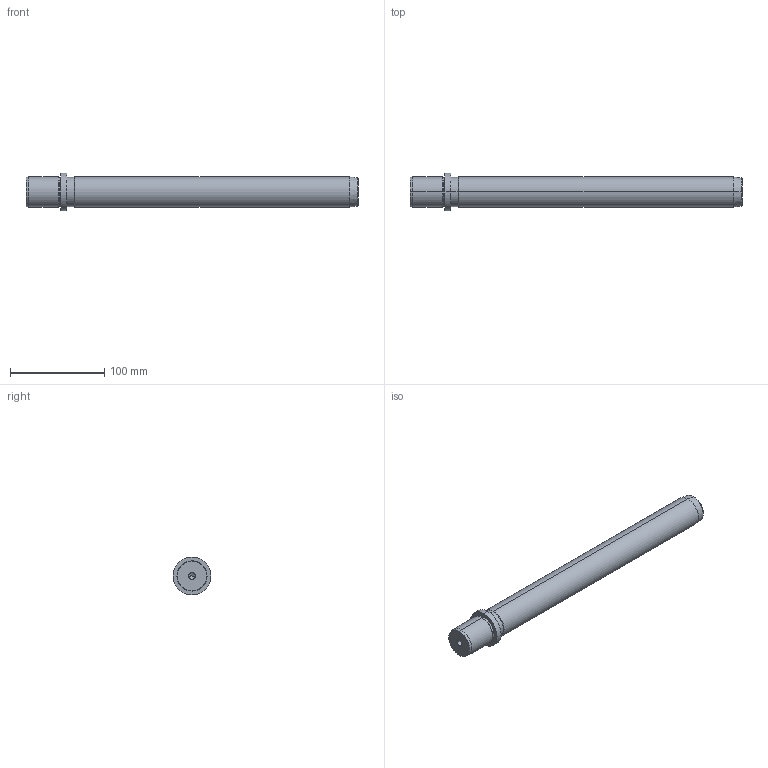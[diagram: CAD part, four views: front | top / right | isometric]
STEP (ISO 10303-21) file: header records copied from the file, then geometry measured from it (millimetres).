
FILE_DESCRIPTION(('CATIA V5 STEP Exchange'),'2;1');
FILE_NAME('C:\Users\Utente\Desktop\IO LAVORO\3D X SITO CF\X SITO\719\719-32x315.stp','2021-01-03T15:46:54+00:00',('none'),('none'),'CATIA Version 5 Release 20 GA (IN-10)','CATIA V5 STEP AP203','none');
FILE_SCHEMA(('CONFIG_CONTROL_DESIGN'));
Length unit declared in the file: millimetre
Products named in the file (1): 719-32x315
Bounding box: 352 x 40 x 40 mm (x, y, z)
Volume: 282926.3 mm3; surface area: 38926.8 mm2
Topology: 1 solids, 1 shells, 36 faces, 100 edges, 66 vertices
Faces by surface type: cone 16, cylinder 14, plane 4, torus 2
Entity records: 1270 total; most frequent: CARTESIAN_POINT 339, ORIENTED_EDGE 192, DIRECTION 158, EDGE_CURVE 96, AXIS2_PLACEMENT_3D 93, VERTEX_POINT 66, CIRCLE 56, EDGE_LOOP 40
